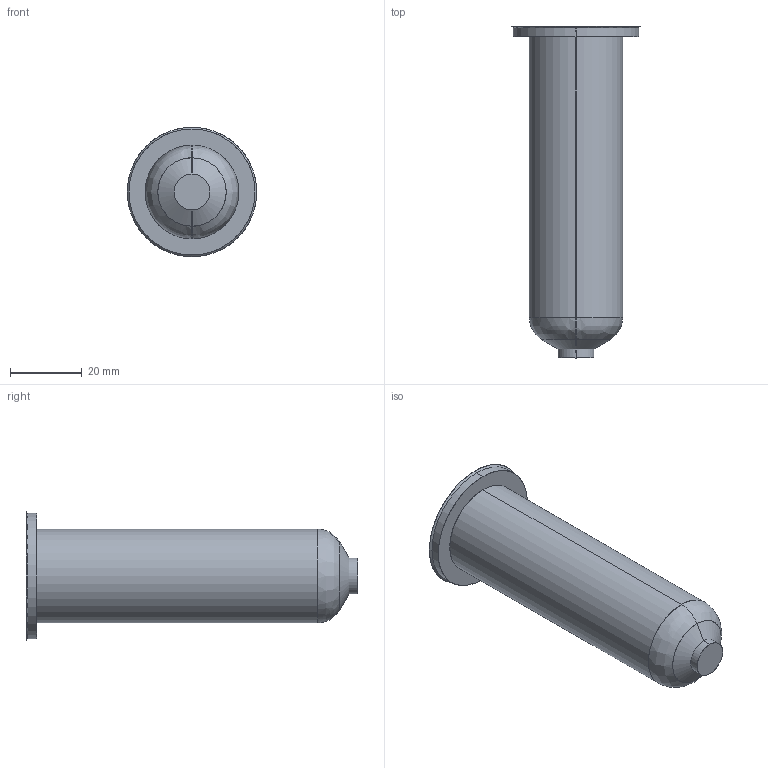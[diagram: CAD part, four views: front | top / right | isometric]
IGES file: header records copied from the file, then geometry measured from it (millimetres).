
Start section: SolidWorks IGES file using analytic representation for surfaces
Global section: file name: C:\Users\luca.EMPAD\Desktop\TEM\Sede UGBE3502-M-A C-89 L-119 P-0.IGS; native system: SolidWorks 2012; preprocessor: SolidWorks 2012; author: luca; date: 120330.142741; units: millimetre
Bounding box: 36 x 92.23 x 36 mm (x, y, z)
Surface area: 9116.4 mm2 (no closed solid volume)
Topology: 0 solids, 0 shells, 15 faces, 240 edges, 240 vertices
Faces by surface type: revolution 10, bspline 5
